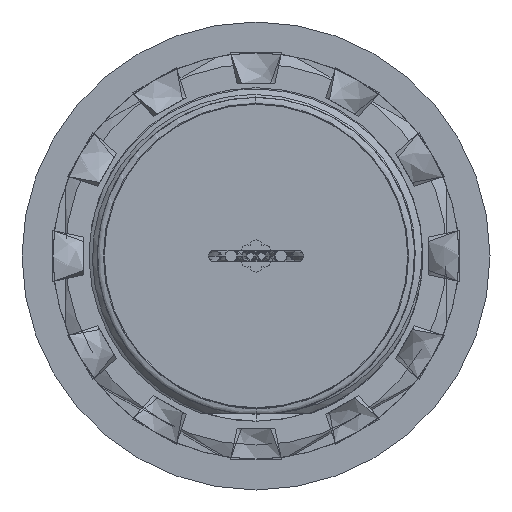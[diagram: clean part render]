
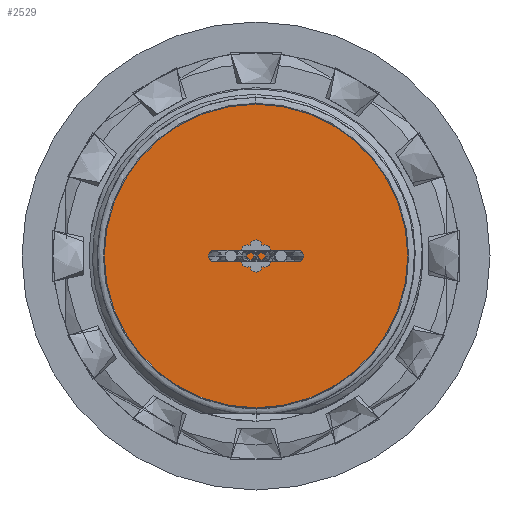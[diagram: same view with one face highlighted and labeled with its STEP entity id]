
A CAD part, front view. The second image highlights one B-rep face of the part: STEP entity #2529.
In plain terms, the highlighted planar face has unit normal (0, -1, 0).
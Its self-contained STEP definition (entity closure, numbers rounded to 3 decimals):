
#2386 = EDGE_CURVE('',#2387,#2389,#2391,.T.);
#2387 = VERTEX_POINT('',#2388);
#2388 = CARTESIAN_POINT('',(11.367,-12.7,0.));
#2389 = VERTEX_POINT('',#2390);
#2390 = CARTESIAN_POINT('',(-11.367,-12.7,0.));
#2391 = SURFACE_CURVE('',#2392,(#2397,#2409),.PCURVE_S1.);
#2392 = CIRCLE('',#2393,11.367);
#2393 = AXIS2_PLACEMENT_3D('',#2394,#2395,#2396);
#2394 = CARTESIAN_POINT('',(0.,-12.7,0.)
  );
#2395 = DIRECTION('',(0.,-1.,0.));
#2396 = DIRECTION('',(1.,0.,0.));
#2397 = PCURVE('',#2398,#2403);
#2398 = CYLINDRICAL_SURFACE('',#2399,11.367);
#2399 = AXIS2_PLACEMENT_3D('',#2400,#2401,#2402);
#2400 = CARTESIAN_POINT('',(0.,-12.7,0.)
  );
#2401 = DIRECTION('',(0.,1.,0.));
#2402 = DIRECTION('',(-1.,0.,0.));
#2403 = DEFINITIONAL_REPRESENTATION('',(#2404),#2408);
#2404 = LINE('',#2405,#2406);
#2405 = CARTESIAN_POINT('',(3.142,0.));
#2406 = VECTOR('',#2407,1.);
#2407 = DIRECTION('',(-1.,0.));
#2408 = ( GEOMETRIC_REPRESENTATION_CONTEXT(2) 
PARAMETRIC_REPRESENTATION_CONTEXT() REPRESENTATION_CONTEXT('2D SPACE',''
  ) );
#2409 = PCURVE('',#2410,#2415);
#2410 = PLANE('',#2411);
#2411 = AXIS2_PLACEMENT_3D('',#2412,#2413,#2414);
#2412 = CARTESIAN_POINT('',(0.,-12.7,0.)
  );
#2413 = DIRECTION('',(0.,-1.,0.));
#2414 = DIRECTION('',(1.,0.,0.));
#2415 = DEFINITIONAL_REPRESENTATION('',(#2416),#2420);
#2416 = CIRCLE('',#2417,11.367);
#2417 = AXIS2_PLACEMENT_2D('',#2418,#2419);
#2418 = CARTESIAN_POINT('',(0.,0.));
#2419 = DIRECTION('',(1.,0.));
#2420 = ( GEOMETRIC_REPRESENTATION_CONTEXT(2) 
PARAMETRIC_REPRESENTATION_CONTEXT() REPRESENTATION_CONTEXT('2D SPACE',''
  ) );
#2438 = CYLINDRICAL_SURFACE('',#2439,11.367);
#2439 = AXIS2_PLACEMENT_3D('',#2440,#2441,#2442);
#2440 = CARTESIAN_POINT('',(0.,-12.7,0.)
  );
#2441 = DIRECTION('',(0.,1.,0.));
#2442 = DIRECTION('',(-1.,0.,0.));
#2492 = EDGE_CURVE('',#2389,#2387,#2493,.T.);
#2493 = SURFACE_CURVE('',#2494,(#2499,#2506),.PCURVE_S1.);
#2494 = CIRCLE('',#2495,11.367);
#2495 = AXIS2_PLACEMENT_3D('',#2496,#2497,#2498);
#2496 = CARTESIAN_POINT('',(0.,-12.7,0.)
  );
#2497 = DIRECTION('',(0.,-1.,0.));
#2498 = DIRECTION('',(1.,0.,0.));
#2499 = PCURVE('',#2438,#2500);
#2500 = DEFINITIONAL_REPRESENTATION('',(#2501),#2505);
#2501 = LINE('',#2502,#2503);
#2502 = CARTESIAN_POINT('',(9.425,0.));
#2503 = VECTOR('',#2504,1.);
#2504 = DIRECTION('',(-1.,0.));
#2505 = ( GEOMETRIC_REPRESENTATION_CONTEXT(2) 
PARAMETRIC_REPRESENTATION_CONTEXT() REPRESENTATION_CONTEXT('2D SPACE',''
  ) );
#2506 = PCURVE('',#2410,#2507);
#2507 = DEFINITIONAL_REPRESENTATION('',(#2508),#2512);
#2508 = CIRCLE('',#2509,11.367);
#2509 = AXIS2_PLACEMENT_2D('',#2510,#2511);
#2510 = CARTESIAN_POINT('',(0.,0.));
#2511 = DIRECTION('',(1.,0.));
#2512 = ( GEOMETRIC_REPRESENTATION_CONTEXT(2) 
PARAMETRIC_REPRESENTATION_CONTEXT() REPRESENTATION_CONTEXT('2D SPACE',''
  ) );
#2529 = ADVANCED_FACE('',(#2530),#2410,.T.);
#2530 = FACE_BOUND('',#2531,.T.);
#2531 = EDGE_LOOP('',(#2532,#2533));
#2532 = ORIENTED_EDGE('',*,*,#2492,.T.);
#2533 = ORIENTED_EDGE('',*,*,#2386,.T.);
